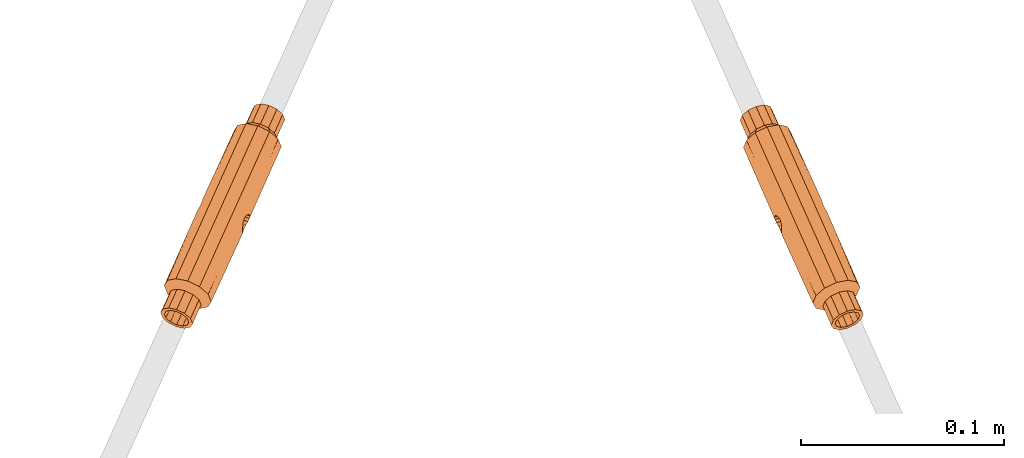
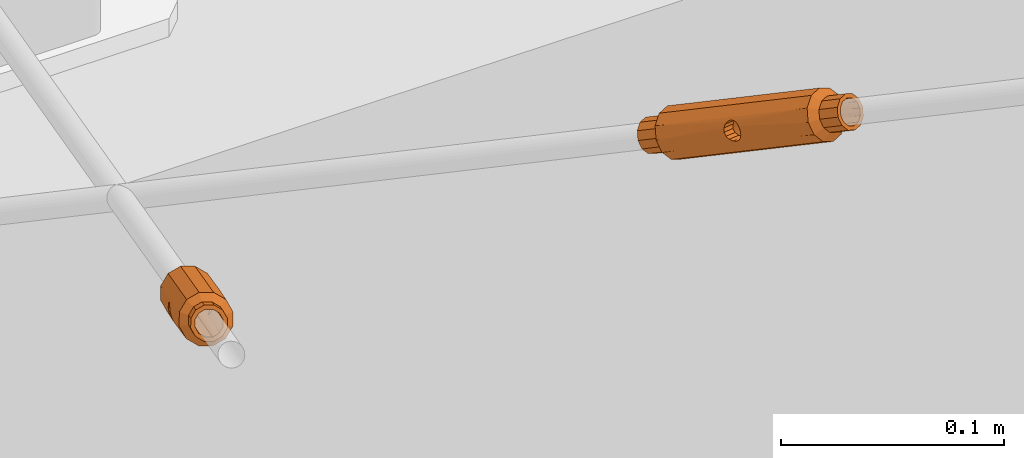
# One storey, part 278 of 288: 2 proxies.
"""IFC2X3 building model written with IfcOpenShell, lengths in millimetres."""

import ifcopenshell
import ifcopenshell.guid

model = None  # the IFC model being written
_history = None  # IfcOwnerHistory: only IFC2X3 demands one
_inside = {}  # id of a spatial element -> (the spatial element, [elements in it])
_under = {}  # id of a project, library or spatial element -> (it, [spatial elements below it])
_declared = {}  # id of a project -> (the project, [libraries it declares])
_typed = {}  # id of a type object -> (the type object, [elements of that type])
_made_of = {}  # id of a material, layer set ... -> (it, [elements and type objects made of it])


def new_model(schema):
    """Start an empty IFC model of exactly this schema.

    Asked for "IFC4X3", IfcOpenShell would pick the latest addendum, in which some entities
    have other attributes; the version numbers below select the first issue.
    IFC2X3 requires an IfcOwnerHistory on every rooted entity: one is made here for all.
    """
    global model, _history
    if schema == "IFC4X3":
        model = ifcopenshell.file(schema_version=(4, 3, 0, 0))
    else:
        model = ifcopenshell.file(schema=schema)
    _inside.clear()
    _under.clear()
    _declared.clear()
    _typed.clear()
    _made_of.clear()
    _history = None
    if model.schema == "IFC2X3":
        org = make("IfcOrganization", Name="unknown")
        user = make(
            "IfcPersonAndOrganization",
            ThePerson=make("IfcPerson", FamilyName="unknown"),
            TheOrganization=org,
        )
        app = make(
            "IfcApplication",
            ApplicationDeveloper=org,
            Version="unknown",
            ApplicationFullName="unknown",
            ApplicationIdentifier="unknown",
        )
        _history = make(
            "IfcOwnerHistory",
            OwningUser=user,
            OwningApplication=app,
            ChangeAction="ADDED",
            CreationDate=0,
        )
    return model


def make(cls, **values):
    """One entity of the class cls with the attributes given. An attribute that is None is left unset."""
    return model.create_entity(
        cls, **{name: value for name, value in values.items() if value is not None}
    )


def entity(cls, *values):
    """Any entity or typed value of the class cls, its attributes in the order of the schema. None: left unset."""
    e = model.create_entity(cls)
    for i, value in enumerate(values):
        if value is not None:
            e[i] = value
    return e


def rooted(cls, **values):
    """An entity with a GlobalId (a new one), such as an element, a storey or a relation."""
    return make(cls, GlobalId=ifcopenshell.guid.new(), OwnerHistory=_history, **values)


def si_unit(unit_type, name, prefix=None):
    """IfcSIUnit, for example si_unit("LENGTHUNIT", "METRE", prefix="MILLI")."""
    return make("IfcSIUnit", UnitType=unit_type, Prefix=prefix, Name=name)


def converted_unit(unit_type, name, factor, base, dimensions=None, offset=None):
    """IfcConversionBasedUnit, such as the inch: factor (a typed value) times the base unit."""
    return make(
        "IfcConversionBasedUnit"
        if offset is None
        else "IfcConversionBasedUnitWithOffset",
        ConversionOffset=offset,
        Dimensions=None
        if dimensions is None
        else entity("IfcDimensionalExponents", *dimensions),
        UnitType=unit_type,
        Name=name,
        ConversionFactor=make(
            "IfcMeasureWithUnit", ValueComponent=factor, UnitComponent=base
        ),
    )


def assignment(units):
    """IfcUnitAssignment: the units of a project."""
    return None if units is None else make("IfcUnitAssignment", Units=units)


def point(xyz):
    """IfcCartesianPoint."""
    return None if xyz is None else make("IfcCartesianPoint", Coordinates=xyz)


def direction(xyz):
    """IfcDirection."""
    return None if xyz is None else make("IfcDirection", DirectionRatios=xyz)


def frame(location, z_axis=None, x_axis=None):
    """IfcAxis2Placement3D, a coordinate frame: its origin and axes. An axis left out is left unset."""
    return make(
        "IfcAxis2Placement3D",
        Location=point(location),
        Axis=direction(z_axis),
        RefDirection=direction(x_axis),
    )


def origin_with_axes():
    """The frame at (0, 0, 0) with the z axis (0, 0, 1) and the x axis (1, 0, 0) written out."""
    return frame((0.0, 0.0, 0.0), z_axis=(0.0, 0.0, 1.0), x_axis=(1.0, 0.0, 0.0))


def place(relative_to, where):
    """IfcLocalPlacement: puts the frame where relative to a parent placement (None: the world)."""
    return make(
        "IfcLocalPlacement", PlacementRelTo=relative_to, RelativePlacement=where
    )


def context(
    kind, dimensions, precision=None, world=None, true_north=None, identifier=None
):
    """IfcGeometricRepresentationContext, for example the 3D "Model" context."""
    return make(
        "IfcGeometricRepresentationContext",
        ContextIdentifier=identifier,
        ContextType=kind,
        CoordinateSpaceDimension=dimensions,
        Precision=precision,
        WorldCoordinateSystem=world,
        TrueNorth=true_north,
    )


def project(units=None, contexts=None):
    """IfcProject with its units and contexts."""
    return rooted(
        "IfcProject",
        Name="project",
        RepresentationContexts=contexts,
        UnitsInContext=assignment(units),
    )


def spatial(cls, under=None, at=None, **own):
    """A site, building, storey or space (cls), placed at a placement, below another one or the project."""
    s = rooted(cls, ObjectPlacement=at, **own)
    if under is not None:
        _under.setdefault(under.id(), (under, []))[1].append(s)
    return s


def faces_of(points, faces, orient=None, outer=None):
    """IfcFace entities. A face is a list of loops; a loop is a list of indices into points, from 0.

    orient and outer hold one flag for each loop. By default every Orientation is true, the
    first loop of a face is its IfcFaceOuterBound and the others are IfcFaceBound.
    """
    made = []
    for i, loops in enumerate(faces):
        bounds = []
        for j, loop in enumerate(loops):
            is_outer = j == 0 if outer is None else outer[i][j]
            bounds.append(
                make(
                    "IfcFaceOuterBound" if is_outer else "IfcFaceBound",
                    Bound=make("IfcPolyLoop", Polygon=[points[k] for k in loop]),
                    Orientation=True if orient is None else orient[i][j],
                )
            )
        made.append(make("IfcFace", Bounds=bounds))
    return made


def faceted_brep(points, faces, orient=None, outer=None, voids=None):
    """IfcFacetedBrep: a solid bounded by flat faces; with voids (closed shells), ...WithVoids."""
    shared = [point(p) for p in points]
    hull = make("IfcClosedShell", CfsFaces=faces_of(shared, faces, orient, outer))
    if voids is None:
        return make("IfcFacetedBrep", Outer=hull)
    return make(
        "IfcFacetedBrepWithVoids",
        Outer=hull,
        Voids=[
            make(cls, CfsFaces=faces_of(shared, fs, o, b)) for cls, fs, o, b in voids
        ],
    )


def shape(context_of_items, identifier, shape_type, items):
    """IfcShapeRepresentation: the items that make up one representation, for example the "Body"."""
    return make(
        "IfcShapeRepresentation",
        ContextOfItems=context_of_items,
        RepresentationIdentifier=identifier,
        RepresentationType=shape_type,
        Items=items,
    )


def material(Name=None, Category=None):
    """IfcMaterial."""
    return make("IfcMaterial", Name=Name, Category=Category)


def made_of(thing, what):
    """Note that an element or type object is made of a material, layer set ...; save() writes the relation."""
    if what is not None:
        _made_of.setdefault(what.id(), (what, []))[1].append(thing)
    return thing


def element(
    cls,
    number,
    at=None,
    inside=None,
    cuts=None,
    type_object=None,
    material=None,
    context=None,
    identifier="Body",
    shape_type=None,
    held_by="IfcProductDefinitionShape",
    body=None,
    shapes=None,
    **own,
):
    """One element of the class cls, such as IfcWall. Its Tag is "e" and its number.

    at: its placement. inside: the storey or other place that contains it. cuts: it is an
    opening in that element (IfcRelVoidsElement). A single representation is given by context,
    identifier, shape_type and body (its items); several are given by shapes. held_by: the class
    of the entity that holds the representations. save() writes the other relations.
    """
    e = rooted(cls, Tag="e%d" % number, ObjectPlacement=at, **own)
    if body is not None:
        shapes = [shape(context, identifier, shape_type, body)]
    if shapes is not None:
        e.Representation = make(held_by, Representations=shapes)
    if inside is not None:
        _inside.setdefault(inside.id(), (inside, []))[1].append(e)
    if cuts is not None:
        rooted(
            "IfcRelVoidsElement", RelatingBuildingElement=cuts, RelatedOpeningElement=e
        )
    if type_object is not None:
        _typed.setdefault(type_object.id(), (type_object, []))[1].append(e)
    return made_of(e, material)


def aggregate(whole, parts):
    """IfcRelAggregates: a whole, such as a stair, and the parts it consists of."""
    return rooted("IfcRelAggregates", RelatingObject=whole, RelatedObjects=parts)


def save(model, path):
    """Write the relations noted so far, then the file.

    IfcRelAggregates (storeys below a building ...), IfcRelContainedInSpatialStructure (elements
    in a storey), IfcRelDefinesByType, IfcRelAssociatesMaterial and IfcRelDeclares: one each for
    every whole, place, type object, material and project.
    """
    for whole, parts in _under.values():
        aggregate(whole, parts)
    for where, things in _inside.values():
        rooted(
            "IfcRelContainedInSpatialStructure",
            RelatedElements=things,
            RelatingStructure=where,
        )
    for kind, things in _typed.values():
        rooted("IfcRelDefinesByType", RelatedObjects=things, RelatingType=kind)
    for what, things in _made_of.values():
        rooted("IfcRelAssociatesMaterial", RelatedObjects=things, RelatingMaterial=what)
    for by, libraries in _declared.values():
        rooted("IfcRelDeclares", RelatingContext=by, RelatedDefinitions=libraries)
    model.write(path)


model = new_model("IFC2X3")

# Units and contexts
model_context = context("Model", 3, precision=1e-09, world=origin_with_axes())
ifc_project = project(units=[si_unit("LENGTHUNIT", "METRE", prefix="MILLI"), si_unit("AREAUNIT", "SQUARE_METRE"), si_unit("VOLUMEUNIT", "CUBIC_METRE"), converted_unit("PLANEANGLEUNIT", "DEGREE", entity("IfcPlaneAngleMeasure", 0.01745329), si_unit("PLANEANGLEUNIT", "RADIAN"), dimensions=[0, 0, 0, 0, 0, 0, 0])], contexts=[model_context])

# Site, building, storey
site_placement = place(None, origin_with_axes())
site = spatial("IfcSite", under=ifc_project, at=site_placement, Name="Remont ?wietlik?w nad MC w NCPP w Opolu", CompositionType="ELEMENT")
building_placement = place(site_placement, origin_with_axes())
building = spatial("IfcBuilding", under=site, at=building_placement, Name="Konstrukcja 1", CompositionType="ELEMENT")
storey_placement = place(building_placement, origin_with_axes())
storey = spatial("IfcBuildingStorey", under=building, at=storey_placement, Name="Default Storey", CompositionType="ELEMENT", Elevation=0.0)

# Proxies
ifc_material = material(Name="Brak")
proxy_1_placement = place(None, origin_with_axes())
element("IfcBuildingElementProxy", 1, at=proxy_1_placement, inside=storey, material=ifc_material, ObjectType="Turnbuckle", context=model_context, shape_type="Brep", body=[
    faceted_brep([(6358.932830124, 567.002294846, 867.315261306), (6360.298895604, 567.477833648, 865.832754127), (6353.749751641, 569.707091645, 864.549774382), (6382.798486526, 620.441156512, 836.797704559), (6361.178308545, 574.563045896, 864.781120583), (6361.485733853, 572.65204119, 864.050066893), (6361.65271733, 569.592438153, 864.276652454), (6361.706358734, 570.592643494, 864.032591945), (6355.150498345, 572.807037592, 862.758202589), (6360.930010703, 567.993040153, 865.201002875), (6354.59884333, 571.014293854, 863.35019964), (6381.991169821, 622.341377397, 839.454441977), (6357.832489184, 567.158524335, 869.060463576), (6352.816733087, 569.064616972, 866.167638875), (6357.398575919, 567.916325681, 870.908663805), (6352.087836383, 569.113933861, 868.002322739), (6337.256645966, 519.654023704, 895.046263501), (6342.738736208, 526.442429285, 886.399289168), (6342.134964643, 528.157046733, 881.383486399), (6347.953498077, 525.344405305, 881.066030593), (6346.682930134, 524.535831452, 886.184096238), (6337.879277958, 531.890720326, 884.516515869), (6351.810971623, 569.812616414, 869.821116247), (6361.041923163, 575.979296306, 866.24877909), (6372.491076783, 608.48894126, 840.247611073), (6355.391994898, 574.763843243, 862.873848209), (6355.450600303, 576.555954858, 863.701307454), (6376.746763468, 604.755267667, 837.114581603), (6361.400007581, 568.70615175, 864.673949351), (6385.011443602, 618.499646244, 835.168529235), (6339.469603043, 517.712513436, 893.417088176), (6342.492986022, 515.249943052, 891.519959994), (6338.536383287, 517.162539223, 891.735829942), (6350.62968329, 523.764442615, 887.935149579), (6346.452156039, 514.476127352, 893.276522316), (6380.128635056, 622.973474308, 839.091926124), (6381.193938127, 624.738556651, 842.978948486), (6384.094819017, 625.310864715, 846.237273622), (6388.053989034, 624.537049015, 847.993835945), (6392.010591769, 622.624452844, 847.777965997), (6394.904458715, 620.085554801, 845.647505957), (6395.96018056, 617.600650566, 842.173310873), (6394.894877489, 615.835568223, 838.286288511), (6391.993996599, 615.26326016, 835.027963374), (6388.034826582, 616.03707586, 833.271401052), (6384.078223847, 617.949672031, 833.487271), (6381.184356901, 620.488570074, 835.61773104), (6385.024134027, 624.128793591, 844.91853124), (6382.805813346, 623.691146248, 842.426870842), (6388.037080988, 617.037072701, 835.003452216), (6391.064681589, 616.445331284, 836.346705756), (6393.28300227, 616.882978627, 838.838366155), (6394.097645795, 618.232747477, 841.81079502), (6393.29032909, 620.132968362, 844.467532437), (6391.077372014, 622.074478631, 846.096707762), (6388.051734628, 623.537052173, 846.261784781), (6336.449329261, 521.554244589, 897.703000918), (6335.642516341, 519.701437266, 893.866289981), (6339.85394509, 528.973364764, 888.523067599), (6336.326745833, 535.544991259, 889.625626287), (6357.836950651, 569.137517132, 872.488191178), (6352.092174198, 571.03807758, 871.335048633), (6361.182770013, 576.542038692, 868.208848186), (6355.454318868, 577.875587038, 865.161231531), (6376.994507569, 611.216153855, 840.976598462), (6375.938785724, 613.70105809, 844.450793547), (6361.493775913, 576.219292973, 870.228749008), (6349.35303693, 515.048435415, 896.534847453), (6350.418340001, 516.813517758, 900.421869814), (6349.362618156, 519.298421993, 903.896064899), (6346.46875121, 521.837320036, 906.026524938), (6342.512148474, 523.749916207, 906.242394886), (6338.552978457, 524.523731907, 904.485832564), (6335.652097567, 523.951423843, 901.227507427), (6334.586794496, 522.1863415, 897.340485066), (6347.74848853, 519.345835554, 902.716091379), (6348.555805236, 517.445614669, 900.059353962), (6347.74116171, 516.095845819, 897.086925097), (6345.52284103, 515.658198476, 894.595264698), (6342.495240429, 516.249939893, 893.252011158), (6337.263972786, 522.90401344, 900.675429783), (6339.482293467, 523.341660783, 903.167090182), (6342.509894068, 522.749919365, 904.510343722), (6345.535531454, 521.287345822, 904.345266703), (6369.053199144, 563.567699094, 869.28504693), (6368.830219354, 564.58251943, 867.493254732), (6369.364205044, 563.244953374, 871.304947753), (6353.775806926, 524.206441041, 883.649210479), (6382.565296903, 601.942626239, 836.797125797), (6379.888374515, 608.677255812, 838.846138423), (6353.521466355, 524.33495579, 891.183255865), (6352.824706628, 572.601475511, 872.293678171), (6358.940872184, 570.569546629, 873.493943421), (6355.454938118, 578.480098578, 867.034033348), (6370.938544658, 612.143212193, 845.356721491), (6355.399968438, 578.300701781, 868.999887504), (6361.716755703, 575.204472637, 872.020541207), (6355.160903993, 577.42271674, 870.752820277), (6361.663765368, 574.493065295, 872.764816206), (6360.309292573, 572.089662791, 873.820703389), (6353.76015729, 574.322770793, 872.544392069), (6375.386071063, 562.364275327, 868.760975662), (6375.147006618, 561.486290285, 870.513908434), (6369.505051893, 563.807695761, 873.265016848), (6375.092036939, 561.306893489, 872.47976259), (6368.883209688, 565.293926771, 866.748979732), (6338.801534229, 531.450475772, 891.986366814), (6361.411279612, 573.706135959, 873.33420517), (6354.610115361, 576.014278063, 872.010455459), (6360.941058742, 572.893667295, 873.689166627), (6377.004088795, 615.466140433, 848.337815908), (6354.583428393, 526.094502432, 895.058087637), (6369.368666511, 565.223946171, 874.732675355), (6375.092656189, 561.911405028, 874.352564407), (6375.936859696, 563.772714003, 867.50334048), (6358.041808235, 525.048070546, 888.440865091), (6388.387605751, 600.804661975, 839.380305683), (6383.844977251, 606.764659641, 838.630268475), (6369.135695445, 566.080856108, 866.179590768), (6337.893367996, 538.140700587, 895.341835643), (6372.505166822, 614.738921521, 851.072930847), (6359.608430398, 527.643779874, 894.157074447), (6375.096374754, 563.231037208, 875.812488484), (6369.605916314, 566.893324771, 865.824629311), (6339.863496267, 533.210022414, 895.861198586), (6379.904969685, 616.038448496, 851.596141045), (6368.840616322, 569.194348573, 875.481203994), (6369.061241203, 567.134950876, 875.463729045), (6353.531017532, 528.571613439, 898.521386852), (6375.154980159, 565.023148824, 876.63994773), (6376.786817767, 565.464221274, 866.969403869), (6392.65360706, 601.64629148, 844.171960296), (6387.804147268, 605.990843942, 840.386830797), (6370.237682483, 567.697329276, 865.69309255), (6371.606102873, 569.217445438, 866.019852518), (6377.722268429, 567.185516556, 867.220117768), (6372.710024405, 570.649474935, 867.02560476), (6378.454800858, 568.748914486, 868.178747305), (6373.148399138, 571.870666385, 868.605132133), (6368.894257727, 570.194553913, 875.237143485), (6369.146967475, 571.080840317, 874.839846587), (6375.396476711, 566.979954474, 876.755593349), (6369.616964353, 571.793951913, 874.312793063), (6378.736003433, 569.974375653, 869.692679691), (6342.755279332, 533.780535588, 899.109304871), (6342.159369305, 538.982330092, 900.133490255), (6376.77116813, 615.580551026, 855.86458546), (6372.714485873, 572.628467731, 870.453332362), (6371.614144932, 572.78469722, 872.198534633), (6383.864139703, 615.264632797, 853.352703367), (6370.248079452, 572.309158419, 873.681041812), (6375.948131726, 568.772698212, 876.163596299), (6376.797223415, 570.079900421, 874.964021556), (6346.702032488, 533.009146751, 900.860358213), (6350.646226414, 531.102548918, 900.645165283), (6358.055898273, 531.298050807, 899.266184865), (6377.73024197, 570.722375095, 873.346157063), (6378.459138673, 570.673058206, 871.5114732), (6394.220229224, 604.242000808, 849.888169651), (6390.705028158, 606.563152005, 843.645155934), (6347.981678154, 537.844365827, 902.716670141), (6382.593476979, 614.442586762, 858.447765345), (6387.820742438, 613.352036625, 853.136833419), (6392.667697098, 607.896271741, 854.997280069), (6353.800211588, 535.031724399, 902.399214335), (6391.770331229, 608.328234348, 847.532178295), (6388.412010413, 611.629945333, 858.13030954), (6390.714609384, 610.813138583, 851.00637338)], [[[0, 1, 2]], [[3, 4, 5]], [[6, 7, 8]], [[9, 10, 2]], [[1, 9, 2]], [[3, 5, 7]], [[3, 11, 4]], [[12, 0, 13]], [[14, 12, 15]], [[16, 1, 0]], [[17, 18, 19, 20]], [[12, 13, 15]], [[0, 2, 13]], [[21, 2, 10]], [[14, 15, 22]], [[11, 23, 4]], [[7, 5, 8]], [[6, 8, 10]], [[24, 21, 10]], [[5, 4, 25]], [[4, 23, 26]], [[21, 24, 27, 18]], [[28, 6, 10]], [[29, 7, 6]], [[9, 28, 10]], [[30, 9, 1]], [[20, 31, 32, 17]], [[33, 34, 31, 20]], [[29, 3, 7]], [[35, 36, 37, 38, 39, 40, 41, 42, 43, 44, 45, 46], [47, 48, 11, 3, 29, 49, 50, 51, 52, 53, 54, 55]], [[16, 0, 12]], [[56, 12, 14]], [[16, 30, 1]], [[17, 32, 57, 58]], [[18, 17, 58, 21]], [[59, 15, 13]], [[21, 13, 2]], [[60, 14, 61]], [[14, 22, 61]], [[59, 22, 15]], [[11, 62, 23]], [[23, 63, 26]], [[5, 25, 8]], [[24, 10, 8]], [[4, 26, 25]], [[46, 64, 65, 35]], [[48, 66, 62]], [[11, 48, 62]], [[67, 68, 69, 70, 71, 72, 73, 74, 57, 32, 31, 34], [75, 76, 77, 78, 79, 30, 16, 56, 80, 81, 82, 83]], [[77, 84, 85]], [[77, 86, 84]], [[77, 76, 86]], [[20, 19, 87, 33]], [[18, 27, 88, 19]], [[64, 46, 45, 89]], [[78, 77, 85]], [[29, 6, 28]], [[30, 28, 9]], [[34, 33, 90, 67]], [[56, 16, 12]], [[56, 14, 60]], [[21, 59, 13]], [[60, 61, 91]], [[59, 61, 22]], [[92, 60, 91]], [[23, 62, 93]], [[23, 93, 63]], [[94, 26, 63]], [[62, 66, 95]], [[66, 96, 97]], [[24, 8, 25]], [[94, 25, 26]], [[24, 64, 89, 27]], [[47, 98, 96]], [[48, 96, 66]], [[99, 92, 100]], [[80, 60, 92]], [[101, 85, 84]], [[102, 84, 86]], [[76, 103, 86]], [[104, 86, 103]], [[101, 105, 85]], [[78, 85, 105]], [[30, 29, 28]], [[80, 56, 60]], [[58, 57, 74, 106]], [[21, 58, 106, 59]], [[59, 91, 61]], [[96, 98, 97]], [[107, 108, 98]], [[107, 109, 108]], [[109, 99, 100]], [[92, 91, 100]], [[62, 95, 93]], [[94, 63, 93]], [[66, 97, 95]], [[94, 24, 25]], [[64, 24, 94, 65]], [[35, 65, 110, 36]], [[81, 109, 107]], [[47, 107, 98]], [[48, 47, 96]], [[80, 92, 99]], [[81, 99, 109]], [[67, 90, 111, 68]], [[102, 101, 84]], [[104, 102, 86]], [[76, 112, 103]], [[113, 104, 103]], [[101, 114, 105]], [[33, 87, 115, 90]], [[19, 88, 116, 87]], [[27, 89, 117, 88]], [[89, 45, 44, 117]], [[114, 118, 105]], [[78, 105, 118]], [[29, 30, 79, 49]], [[59, 119, 91]], [[98, 108, 97]], [[109, 100, 108]], [[119, 100, 91]], [[94, 93, 95]], [[120, 95, 97]], [[47, 81, 107]], [[81, 80, 99]], [[76, 75, 112]], [[115, 101, 102]], [[121, 102, 104]], [[122, 103, 112]], [[122, 113, 103]], [[121, 104, 113]], [[115, 114, 101]], [[114, 123, 118]], [[50, 78, 118]], [[78, 50, 49, 79]], [[106, 74, 73, 124]], [[59, 106, 124, 119]], [[120, 97, 108]], [[119, 108, 100]], [[120, 94, 95]], [[65, 94, 120, 110]], [[36, 110, 125, 37]], [[81, 47, 55, 82]], [[75, 83, 126]], [[75, 127, 112]], [[75, 126, 127]], [[68, 111, 128, 69]], [[90, 115, 121, 111]], [[121, 115, 102]], [[129, 122, 112]], [[121, 113, 122]], [[114, 130, 123]], [[115, 131, 114]], [[87, 116, 131, 115]], [[88, 117, 132, 116]], [[117, 44, 43, 132]], [[130, 133, 123]], [[50, 118, 123]], [[130, 134, 133]], [[135, 136, 134]], [[137, 138, 136]], [[119, 120, 108]], [[83, 139, 126]], [[83, 140, 139]], [[129, 112, 127]], [[127, 126, 141]], [[54, 142, 140]], [[121, 122, 129]], [[137, 143, 138]], [[135, 137, 136]], [[130, 135, 134]], [[131, 130, 114]], [[50, 123, 133]], [[51, 133, 134]], [[51, 134, 136]], [[52, 136, 138]], [[124, 73, 72, 144]], [[119, 124, 144, 145]], [[120, 119, 145, 146]], [[110, 120, 146, 125]], [[52, 138, 147]], [[53, 147, 148]], [[37, 125, 149, 38]], [[53, 148, 150]], [[54, 150, 142]], [[83, 54, 140]], [[82, 55, 54, 83]], [[126, 139, 141]], [[139, 140, 151]], [[127, 141, 129]], [[140, 142, 151]], [[152, 142, 150]], [[71, 153, 144, 72]], [[70, 154, 153, 71]], [[69, 128, 154, 70]], [[111, 121, 155, 128]], [[155, 121, 129]], [[152, 150, 148]], [[156, 148, 147]], [[157, 147, 138]], [[143, 157, 138]], [[158, 143, 137]], [[158, 137, 135]], [[131, 135, 130]], [[116, 132, 159, 131]], [[132, 43, 42, 159]], [[51, 50, 133]], [[52, 51, 136]], [[53, 52, 147]], [[54, 53, 150]], [[139, 151, 141]], [[155, 129, 141]], [[152, 151, 142]], [[156, 152, 148]], [[157, 156, 147]], [[158, 157, 143]], [[131, 158, 135]], [[145, 144, 153, 160]], [[146, 145, 160, 161]], [[125, 146, 161, 149]], [[38, 149, 162, 39]], [[155, 141, 151]], [[163, 151, 152]], [[154, 164, 160, 153]], [[128, 155, 164, 154]], [[163, 152, 156]], [[158, 156, 157]], [[131, 159, 165, 158]], [[159, 42, 41, 165]], [[163, 155, 151]], [[158, 163, 156]], [[161, 160, 164, 166]], [[149, 161, 166, 162]], [[40, 167, 165, 41]], [[39, 162, 167, 40]], [[155, 163, 166, 164]], [[158, 165, 167, 163]], [[162, 166, 163, 167]]]),
])
proxy_2_placement = place(None, origin_with_axes())
element("IfcBuildingElementProxy", 2, at=proxy_2_placement, inside=storey, material=ifc_material, ObjectType="Turnbuckle", context=model_context, shape_type="Brep", body=[
    faceted_brep([(6647.223296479, 562.938972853, 869.285979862), (6647.450873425, 563.952774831, 867.494189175), (6640.885052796, 561.764188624, 868.761866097), (6623.234952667, 616.363236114, 838.839137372), (6643.598536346, 570.037206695, 867.026513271), (6644.695979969, 568.600201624, 866.020768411), (6646.685641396, 566.267063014, 865.825558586), (6646.057517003, 567.073915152, 865.694017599), (6639.498345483, 564.870434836, 866.970284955), (6647.401104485, 564.664414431, 866.749913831), (6640.340644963, 563.175102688, 867.504227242), (6622.426399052, 617.716673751, 841.811560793), (6646.910821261, 562.617636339, 871.305878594), (6641.120134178, 560.885131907, 870.51480046), (6646.772506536, 563.181009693, 873.265946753), (6641.174279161, 560.705488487, 872.480654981), (6668.320336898, 515.371265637, 897.088000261), (6665.466571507, 523.052841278, 887.936205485), (6662.322506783, 523.509056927, 883.650245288), (6668.149917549, 524.620690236, 881.067104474), (6669.416783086, 523.80638122, 886.185178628), (6658.06032144, 524.369962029, 888.441871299), (6641.176380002, 561.309996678, 874.353456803), (6643.165675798, 571.260367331, 868.606037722), (6623.795429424, 601.123859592, 844.172735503), (6638.570683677, 566.595941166, 867.220992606), (6637.84521952, 568.162634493, 868.179617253), (6628.057614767, 600.26295449, 839.381109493), (6647.15218238, 565.452477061, 866.180523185), (6625.451289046, 615.915565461, 836.347491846), (6670.536673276, 514.923594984, 894.596354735), (6673.564672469, 514.501647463, 891.521070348), (6669.602033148, 513.745736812, 893.277606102), (6673.369553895, 525.695130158, 886.400398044), (6677.529879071, 516.396338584, 891.736966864), (6620.56102354, 617.093002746, 842.174064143), (6621.62794411, 619.573109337, 845.648266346), (6624.533244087, 622.098899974, 847.778745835), (6628.49845069, 623.993591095, 847.994642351), (6632.461090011, 624.749501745, 846.238106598), (6635.359376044, 624.164086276, 842.97980091), (6636.416715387, 622.394206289, 839.092785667), (6635.349794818, 619.914099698, 835.618583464), (6632.444494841, 617.388309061, 833.488103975), (6628.479288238, 615.49361794, 833.272207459), (6624.516648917, 614.73770729, 835.028743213), (6621.618362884, 615.323122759, 838.2870489), (6625.46397947, 621.544712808, 846.097493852), (6623.242279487, 619.61322585, 844.468303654), (6628.481542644, 616.493614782, 835.004258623), (6631.513759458, 617.942496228, 835.169355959), (6633.73545944, 619.873983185, 836.798546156), (6634.551339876, 621.770535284, 839.455289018), (6633.74278626, 623.123972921, 842.427712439), (6631.526449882, 623.571643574, 844.919357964), (6628.496196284, 622.993594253, 846.262591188), (6667.511783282, 516.724703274, 900.060423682), (6666.703747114, 514.331152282, 896.535911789), (6662.57737516, 523.636420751, 891.184292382), (6656.50541064, 526.972726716, 894.158070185), (6646.915282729, 564.596629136, 874.733606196), (6641.178616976, 562.629632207, 875.813380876), (6643.602997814, 572.016199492, 870.454240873), (6637.569549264, 569.389354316, 869.693547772), (6625.766218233, 606.031861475, 843.645944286), (6624.70887889, 607.801741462, 847.532959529), (6644.704022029, 572.167453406, 872.199450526), (6680.435179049, 518.922129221, 893.867446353), (6681.502099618, 521.402235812, 897.341648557), (6680.444760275, 523.172115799, 901.228663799), (6677.546474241, 523.757531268, 904.486969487), (6673.583834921, 523.001620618, 906.24350524), (6669.618628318, 521.106929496, 906.027608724), (6666.71332834, 518.58113886, 903.897129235), (6665.646407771, 516.101032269, 900.422927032), (6678.828170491, 522.132002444, 900.676575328), (6679.636724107, 520.778564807, 897.704151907), (6678.820843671, 518.882012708, 895.047409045), (6676.599143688, 516.95052575, 893.418218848), (6673.566926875, 515.501644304, 893.253121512), (6668.327663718, 518.621255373, 902.717166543), (6670.549363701, 520.55274233, 904.346356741), (6673.581580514, 522.001623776, 904.511454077), (6676.611834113, 522.579673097, 903.168220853), (6657.35910113, 566.327785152, 867.316262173), (6655.995209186, 566.809494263, 865.833745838), (6658.460125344, 566.479039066, 869.061471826), (6673.981103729, 527.407000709, 881.38459935), (6633.885025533, 601.374587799, 836.797968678), (6628.664504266, 605.446446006, 840.387638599), (6676.265742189, 528.212999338, 888.524195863), (6641.128107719, 564.421990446, 876.640839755), (6647.231338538, 566.506224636, 875.464661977), (6637.849557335, 570.086778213, 871.512343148), (6622.240518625, 603.726624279, 849.88893439), (6638.578657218, 570.132799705, 873.347031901), (6646.067913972, 571.685744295, 873.681966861), (6639.508751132, 569.486113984, 874.964902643), (6646.696689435, 571.167690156, 874.313722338), (6647.461270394, 568.564603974, 875.482138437), (6640.895458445, 566.379867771, 876.756483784), (6662.554372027, 569.009124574, 864.550810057), (6663.48446594, 568.362438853, 866.168680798), (6658.897447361, 567.234871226, 870.909674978), (6664.213565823, 568.408460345, 868.003369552), (6655.366433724, 567.327548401, 865.201990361), (6661.523351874, 525.40074999, 895.059117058), (6647.16345441, 570.45246127, 874.840779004), (6640.351916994, 568.175086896, 876.164483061), (6647.412152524, 569.565041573, 875.238077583), (6625.775799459, 610.281848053, 851.007161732), (6677.329316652, 530.685327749, 891.987502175), (6658.464586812, 568.458031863, 872.489199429), (6664.493573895, 569.105884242, 869.822164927), (6661.711206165, 570.320151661, 863.351229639), (6678.253603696, 531.121398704, 884.517657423), (6639.716211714, 604.160898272, 837.115463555), (6632.627143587, 606.202356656, 838.631102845), (6654.899668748, 568.042777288, 864.674933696), (6658.074411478, 530.619942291, 899.267191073), (6623.809519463, 607.373839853, 854.998055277), (6679.822604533, 534.768614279, 889.62677831), (6664.217903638, 570.332604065, 871.336095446), (6654.650970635, 568.930196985, 864.277635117), (6662.586926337, 527.873078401, 898.52242337), (6628.681099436, 612.80763869, 853.137641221), (6656.005606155, 571.421323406, 873.8216951), (6657.367143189, 569.895036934, 873.494944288), (6676.275293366, 532.449656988, 895.862326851), (6663.492439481, 571.899297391, 872.294720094), (6661.167664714, 572.115370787, 862.759228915), (6643.98871168, 607.875296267, 840.248521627), (6636.59235019, 608.097047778, 838.846999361), (6654.601852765, 569.930634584, 864.033574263), (6654.83178462, 571.989013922, 864.051050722), (6660.935015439, 574.073248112, 862.874872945), (6655.14784043, 573.898609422, 864.782106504), (6660.884506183, 575.865606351, 863.702331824), (6655.290616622, 575.314228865, 866.249765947), (6655.377481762, 572.228175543, 873.690154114), (6654.910940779, 573.042761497, 873.335189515), (6662.564777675, 573.624803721, 872.545427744), (6654.662018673, 573.830824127, 872.765798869), (6660.886743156, 577.18524188, 865.162255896), (6665.483114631, 530.390947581, 900.646221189), (6662.346911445, 534.334340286, 902.400249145), (6628.082019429, 611.088237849, 858.131113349), (6655.152301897, 575.877602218, 868.209834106), (6654.83982668, 575.556265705, 870.229732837), (6632.646306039, 614.702329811, 853.353537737), (6654.612249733, 574.542463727, 872.021523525), (6661.722478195, 575.32013587, 872.011485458), (6661.178070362, 576.731049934, 870.753846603), (6669.43588544, 532.279696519, 900.861440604), (6673.386097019, 533.033236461, 899.110413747), (6678.267693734, 537.371378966, 895.342977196), (6660.94298898, 577.610106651, 869.00091224), (6660.888843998, 577.789750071, 867.035057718), (6645.557712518, 611.522511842, 845.357642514), (6639.497650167, 610.622838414, 840.97747885), (6668.178097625, 537.120650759, 902.717744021), (6633.91320561, 613.874548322, 858.448608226), (6636.60894536, 615.458240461, 851.597001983), (6644.002801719, 614.125276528, 851.073841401), (6674.005508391, 538.232284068, 900.134603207), (6640.564570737, 613.102945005, 844.451681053), (6639.740616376, 614.986181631, 855.865467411), (6639.507231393, 614.872824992, 848.338696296)], [[[0, 1, 2]], [[3, 4, 5]], [[6, 7, 8]], [[9, 10, 2]], [[1, 9, 2]], [[3, 5, 7]], [[3, 11, 4]], [[12, 0, 13]], [[14, 12, 15]], [[16, 1, 0]], [[17, 18, 19, 20]], [[12, 13, 15]], [[0, 2, 13]], [[21, 2, 10]], [[14, 15, 22]], [[11, 23, 4]], [[7, 5, 8]], [[6, 8, 10]], [[24, 21, 10]], [[5, 4, 25]], [[4, 23, 26]], [[21, 24, 27, 18]], [[28, 6, 10]], [[29, 7, 6]], [[9, 28, 10]], [[30, 9, 1]], [[20, 31, 32, 17]], [[33, 34, 31, 20]], [[29, 3, 7]], [[35, 36, 37, 38, 39, 40, 41, 42, 43, 44, 45, 46], [47, 48, 11, 3, 29, 49, 50, 51, 52, 53, 54, 55]], [[16, 0, 12]], [[56, 12, 14]], [[16, 30, 1]], [[17, 32, 57, 58]], [[18, 17, 58, 21]], [[59, 15, 13]], [[21, 13, 2]], [[60, 14, 61]], [[14, 22, 61]], [[59, 22, 15]], [[11, 62, 23]], [[23, 63, 26]], [[5, 25, 8]], [[24, 10, 8]], [[4, 26, 25]], [[46, 64, 65, 35]], [[48, 66, 62]], [[11, 48, 62]], [[67, 68, 69, 70, 71, 72, 73, 74, 57, 32, 31, 34], [75, 76, 77, 78, 79, 30, 16, 56, 80, 81, 82, 83]], [[77, 84, 85]], [[77, 86, 84]], [[77, 76, 86]], [[20, 19, 87, 33]], [[18, 27, 88, 19]], [[64, 46, 45, 89]], [[78, 77, 85]], [[29, 6, 28]], [[30, 28, 9]], [[34, 33, 90, 67]], [[56, 16, 12]], [[56, 14, 60]], [[21, 59, 13]], [[60, 61, 91]], [[59, 61, 22]], [[92, 60, 91]], [[23, 62, 93]], [[23, 93, 63]], [[94, 26, 63]], [[62, 66, 95]], [[66, 96, 97]], [[24, 8, 25]], [[94, 25, 26]], [[24, 64, 89, 27]], [[47, 98, 96]], [[48, 96, 66]], [[99, 92, 100]], [[80, 60, 92]], [[101, 85, 84]], [[102, 84, 86]], [[76, 103, 86]], [[104, 86, 103]], [[101, 105, 85]], [[78, 85, 105]], [[30, 29, 28]], [[80, 56, 60]], [[58, 57, 74, 106]], [[21, 58, 106, 59]], [[59, 91, 61]], [[96, 98, 97]], [[107, 108, 98]], [[107, 109, 108]], [[109, 99, 100]], [[92, 91, 100]], [[62, 95, 93]], [[94, 63, 93]], [[66, 97, 95]], [[94, 24, 25]], [[64, 24, 94, 65]], [[35, 65, 110, 36]], [[81, 109, 107]], [[47, 107, 98]], [[48, 47, 96]], [[80, 92, 99]], [[81, 99, 109]], [[67, 90, 111, 68]], [[102, 101, 84]], [[104, 102, 86]], [[76, 112, 103]], [[113, 104, 103]], [[101, 114, 105]], [[33, 87, 115, 90]], [[19, 88, 116, 87]], [[27, 89, 117, 88]], [[89, 45, 44, 117]], [[114, 118, 105]], [[78, 105, 118]], [[29, 30, 79, 49]], [[59, 119, 91]], [[98, 108, 97]], [[109, 100, 108]], [[119, 100, 91]], [[94, 93, 95]], [[120, 95, 97]], [[47, 81, 107]], [[81, 80, 99]], [[76, 75, 112]], [[115, 101, 102]], [[121, 102, 104]], [[122, 103, 112]], [[122, 113, 103]], [[121, 104, 113]], [[115, 114, 101]], [[114, 123, 118]], [[50, 78, 118]], [[78, 50, 49, 79]], [[106, 74, 73, 124]], [[59, 106, 124, 119]], [[120, 97, 108]], [[119, 108, 100]], [[120, 94, 95]], [[65, 94, 120, 110]], [[36, 110, 125, 37]], [[81, 47, 55, 82]], [[75, 83, 126]], [[75, 127, 112]], [[75, 126, 127]], [[68, 111, 128, 69]], [[90, 115, 121, 111]], [[121, 115, 102]], [[129, 122, 112]], [[121, 113, 122]], [[114, 130, 123]], [[115, 131, 114]], [[87, 116, 131, 115]], [[88, 117, 132, 116]], [[117, 44, 43, 132]], [[130, 133, 123]], [[50, 118, 123]], [[130, 134, 133]], [[135, 136, 134]], [[137, 138, 136]], [[119, 120, 108]], [[83, 139, 126]], [[83, 140, 139]], [[129, 112, 127]], [[127, 126, 141]], [[54, 142, 140]], [[121, 122, 129]], [[137, 143, 138]], [[135, 137, 136]], [[130, 135, 134]], [[131, 130, 114]], [[50, 123, 133]], [[51, 133, 134]], [[51, 134, 136]], [[52, 136, 138]], [[124, 73, 72, 144]], [[119, 124, 144, 145]], [[120, 119, 145, 146]], [[110, 120, 146, 125]], [[52, 138, 147]], [[53, 147, 148]], [[37, 125, 149, 38]], [[53, 148, 150]], [[54, 150, 142]], [[83, 54, 140]], [[82, 55, 54, 83]], [[126, 139, 141]], [[139, 140, 151]], [[127, 141, 129]], [[140, 142, 151]], [[152, 142, 150]], [[71, 153, 144, 72]], [[70, 154, 153, 71]], [[69, 128, 154, 70]], [[111, 121, 155, 128]], [[155, 121, 129]], [[152, 150, 148]], [[156, 148, 147]], [[157, 147, 138]], [[143, 157, 138]], [[158, 143, 137]], [[158, 137, 135]], [[131, 135, 130]], [[116, 132, 159, 131]], [[132, 43, 42, 159]], [[51, 50, 133]], [[52, 51, 136]], [[53, 52, 147]], [[54, 53, 150]], [[139, 151, 141]], [[155, 129, 141]], [[152, 151, 142]], [[156, 152, 148]], [[157, 156, 147]], [[158, 157, 143]], [[131, 158, 135]], [[145, 144, 153, 160]], [[146, 145, 160, 161]], [[125, 146, 161, 149]], [[38, 149, 162, 39]], [[155, 141, 151]], [[163, 151, 152]], [[154, 164, 160, 153]], [[128, 155, 164, 154]], [[163, 152, 156]], [[158, 156, 157]], [[131, 159, 165, 158]], [[159, 42, 41, 165]], [[163, 155, 151]], [[158, 163, 156]], [[161, 160, 164, 166]], [[149, 161, 166, 162]], [[40, 167, 165, 41]], [[39, 162, 167, 40]], [[155, 163, 166, 164]], [[158, 165, 167, 163]], [[162, 166, 163, 167]]]),
])

save(model, "model.ifc")
